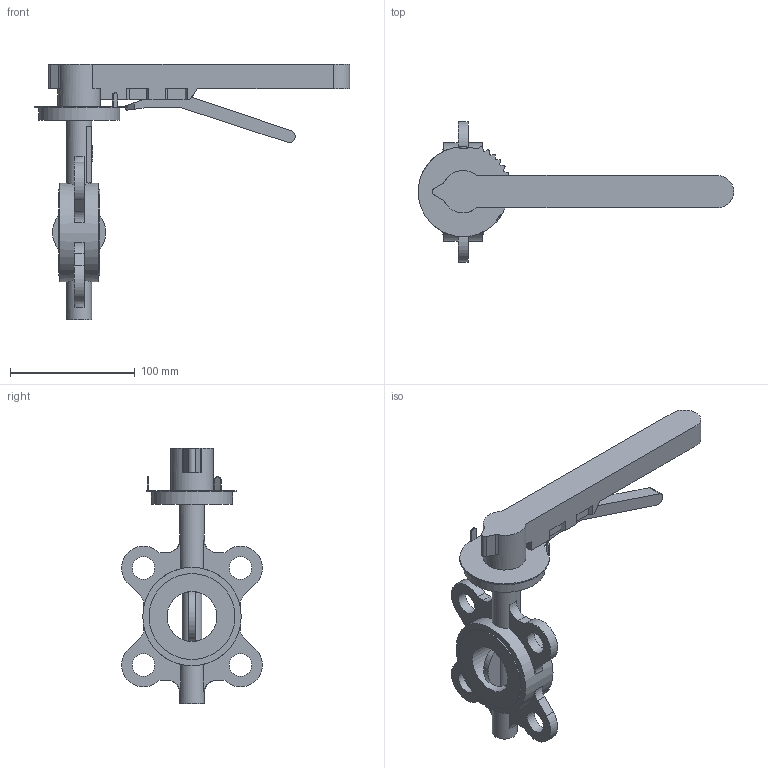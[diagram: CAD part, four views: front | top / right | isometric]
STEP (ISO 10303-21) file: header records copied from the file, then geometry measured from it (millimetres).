
FILE_DESCRIPTION(('STEP AP203'), '1');
FILE_NAME('Çàòâîð 017W.YS_DN40_ðóêîÿòü', '', ('UNSPECIFIED'), ('UNSPECIFIED'), 'ASCON STEP Converter 1.6', 'ASCON Math Kernel', '');
FILE_SCHEMA(('CONFIG_CONTROL_DESIGN'));
Length unit declared in the file: millimetre
Bounding box: 252.97 x 112.65 x 205 mm (x, y, z)
Volume: 386956.2 mm3; surface area: 79185.4 mm2
Topology: 1 solids, 1 shells, 192 faces, 520 edges, 345 vertices
Faces by surface type: plane 115, cylinder 73, torus 4
Full cylindrical faces by diameter (mm): 8 x4, 18 x4, 20 x2, 34 x1, 40 x1, 65 x1, 68.9 x2, 78.9 x1
Entity records: 9141 total; most frequent: CARTESIAN_POINT 2693, ORIENTED_EDGE 1008, DIRECTION 1003, EDGE_CURVE 504, AXIS2_PLACEMENT_3D 347, VERTEX_POINT 345, LINE 309, VECTOR 309
